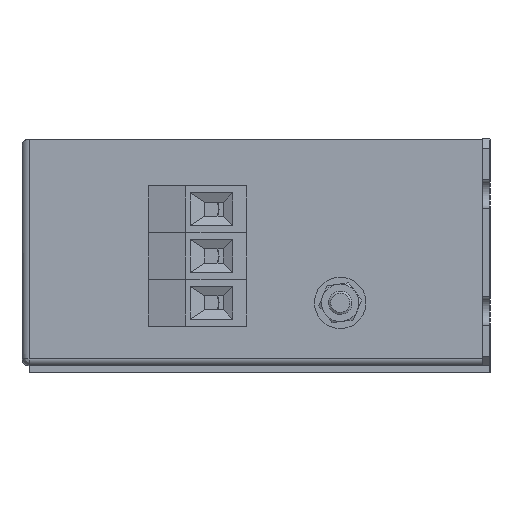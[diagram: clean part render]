
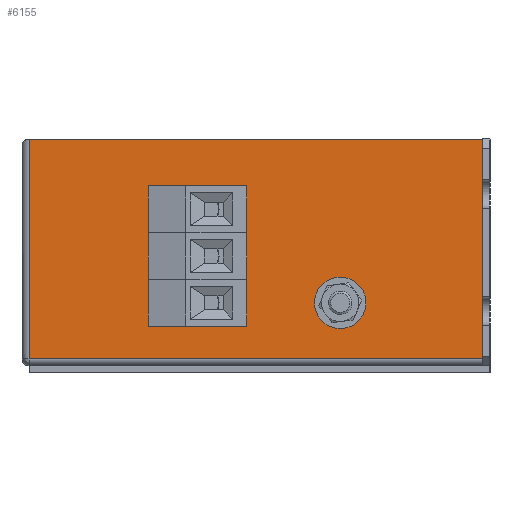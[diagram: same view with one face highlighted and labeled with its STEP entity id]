
A CAD part, left-side view. The second image highlights one B-rep face of the part: STEP entity #6155.
In plain terms, the highlighted planar face has unit normal (-1, 0, 0).
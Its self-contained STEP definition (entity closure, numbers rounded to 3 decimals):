
#51 = DIRECTION ( 'NONE',  ( 0., 0., -1. ) ) ;
#54 = CARTESIAN_POINT ( 'NONE',  ( 15., 98.5, 0. ) ) ;
#88 = AXIS2_PLACEMENT_3D ( 'NONE', #852, #3068, #1511 ) ;
#135 = ORIENTED_EDGE ( 'NONE', *, *, #3307, .F. ) ;
#168 = PLANE ( 'NONE',  #1678 ) ;
#212 = DIRECTION ( 'NONE',  ( -1., 0., 0. ) ) ;
#425 = VERTEX_POINT ( 'NONE', #5685 ) ;
#473 = DIRECTION ( 'NONE',  ( -1., 0., 0. ) ) ;
#514 = CARTESIAN_POINT ( 'NONE',  ( 15., 62., -20.9 ) ) ;
#521 = VERTEX_POINT ( 'NONE', #2566 ) ;
#715 = FACE_BOUND ( 'NONE', #1885, .T. ) ;
#792 = ORIENTED_EDGE ( 'NONE', *, *, #5394, .F. ) ;
#852 = CARTESIAN_POINT ( 'NONE',  ( 15., 62., -15. ) ) ;
#966 = CARTESIAN_POINT ( 'NONE',  ( 15., 32., -32.5 ) ) ;
#1113 = EDGE_LOOP ( 'NONE', ( #5873, #6171 ) ) ;
#1130 = DIRECTION ( 'NONE',  ( 0., 0., -1. ) ) ;
#1235 = DIRECTION ( 'NONE',  ( 0., 1., 0. ) ) ;
#1479 = VERTEX_POINT ( 'NONE', #1503 ) ;
#1503 = CARTESIAN_POINT ( 'NONE',  ( 15., 1.5, -47. ) ) ;
#1511 = DIRECTION ( 'NONE',  ( 0., 0., -1. ) ) ;
#1619 = AXIS2_PLACEMENT_3D ( 'NONE', #5191, #212, #4651 ) ;
#1678 = AXIS2_PLACEMENT_3D ( 'NONE', #4059, #6276, #3185 ) ;
#1687 = EDGE_CURVE ( 'NONE', #1479, #425, #1794, .T. ) ;
#1757 = DIRECTION ( 'NONE',  ( -1., 0., 0. ) ) ;
#1794 = LINE ( 'NONE', #6202, #3916 ) ;
#1800 = CIRCLE ( 'NONE', #3877, 2.5 ) ;
#1885 = EDGE_LOOP ( 'NONE', ( #6940, #792 ) ) ;
#1910 = EDGE_CURVE ( 'NONE', #3219, #3903, #5651, .T. ) ;
#1959 = CIRCLE ( 'NONE', #4617, 4.1 ) ;
#2006 = EDGE_CURVE ( 'NONE', #3558, #6318, #1959, .T. ) ;
#2063 = EDGE_CURVE ( 'NONE', #521, #6119, #3110, .T. ) ;
#2073 = DIRECTION ( 'NONE',  ( -1., 0., 0. ) ) ;
#2152 = EDGE_CURVE ( 'NONE', #6119, #521, #3808, .T. ) ;
#2230 = VERTEX_POINT ( 'NONE', #966 ) ;
#2300 = CARTESIAN_POINT ( 'NONE',  ( 15., 62., -15. ) ) ;
#2302 = DIRECTION ( 'NONE',  ( 0., 0., 1. ) ) ;
#2382 = ORIENTED_EDGE ( 'NONE', *, *, #2152, .F. ) ;
#2420 = EDGE_LOOP ( 'NONE', ( #7015, #5345 ) ) ;
#2424 = DIRECTION ( 'NONE',  ( 0., 1., 0. ) ) ;
#2533 = LINE ( 'NONE', #54, #6608 ) ;
#2566 = CARTESIAN_POINT ( 'NONE',  ( 15., 62., -10.9 ) ) ;
#2610 = CARTESIAN_POINT ( 'NONE',  ( 15., 1.5, 0. ) ) ;
#2671 = CARTESIAN_POINT ( 'NONE',  ( 15., 98.5, 0. ) ) ;
#2793 = EDGE_CURVE ( 'NONE', #2230, #3638, #4400, .T. ) ;
#2887 = DIRECTION ( 'NONE',  ( 0., 0., -1. ) ) ;
#2937 = FACE_BOUND ( 'NONE', #3372, .T. ) ;
#2990 = AXIS2_PLACEMENT_3D ( 'NONE', #2300, #4523, #6218 ) ;
#2993 = CARTESIAN_POINT ( 'NONE',  ( 15., 62., -35. ) ) ;
#3048 = ORIENTED_EDGE ( 'NONE', *, *, #4477, .T. ) ;
#3068 = DIRECTION ( 'NONE',  ( -1., 0., 0. ) ) ;
#3110 = CIRCLE ( 'NONE', #2990, 4.1 ) ;
#3151 = EDGE_CURVE ( 'NONE', #3297, #1479, #5220, .T. ) ;
#3168 = AXIS2_PLACEMENT_3D ( 'NONE', #4150, #6477, #4263 ) ;
#3185 = DIRECTION ( 'NONE',  ( 0., 0., -1. ) ) ;
#3219 = VERTEX_POINT ( 'NONE', #3518 ) ;
#3275 = CIRCLE ( 'NONE', #3168, 4.1 ) ;
#3297 = VERTEX_POINT ( 'NONE', #2610 ) ;
#3307 = EDGE_CURVE ( 'NONE', #425, #5064, #2533, .T. ) ;
#3372 = EDGE_LOOP ( 'NONE', ( #2382, #5187 ) ) ;
#3485 = FACE_BOUND ( 'NONE', #1113, .T. ) ;
#3518 = CARTESIAN_POINT ( 'NONE',  ( 15., 62., -29.1 ) ) ;
#3558 = VERTEX_POINT ( 'NONE', #5751 ) ;
#3638 = VERTEX_POINT ( 'NONE', #5940 ) ;
#3754 = ORIENTED_EDGE ( 'NONE', *, *, #3151, .F. ) ;
#3808 = CIRCLE ( 'NONE', #88, 4.1 ) ;
#3877 = AXIS2_PLACEMENT_3D ( 'NONE', #6615, #1757, #1130 ) ;
#3903 = VERTEX_POINT ( 'NONE', #514 ) ;
#3916 = VECTOR ( 'NONE', #1235, 1000. ) ;
#4059 = CARTESIAN_POINT ( 'NONE',  ( 15., 100., 0. ) ) ;
#4150 = CARTESIAN_POINT ( 'NONE',  ( 15., 62., -25. ) ) ;
#4263 = DIRECTION ( 'NONE',  ( 0., 0., -1. ) ) ;
#4310 = EDGE_CURVE ( 'NONE', #6318, #3558, #5811, .T. ) ;
#4400 = CIRCLE ( 'NONE', #1619, 2.5 ) ;
#4477 = EDGE_CURVE ( 'NONE', #3297, #5064, #5759, .T. ) ;
#4500 = DIRECTION ( 'NONE',  ( 0., 0., -1. ) ) ;
#4523 = DIRECTION ( 'NONE',  ( -1., 0., 0. ) ) ;
#4537 = AXIS2_PLACEMENT_3D ( 'NONE', #5966, #473, #4500 ) ;
#4540 = ORIENTED_EDGE ( 'NONE', *, *, #1687, .F. ) ;
#4570 = DIRECTION ( 'NONE',  ( 0., 0., -1. ) ) ;
#4605 = CARTESIAN_POINT ( 'NONE',  ( 15., 62., -19.1 ) ) ;
#4617 = AXIS2_PLACEMENT_3D ( 'NONE', #2993, #6333, #2887 ) ;
#4651 = DIRECTION ( 'NONE',  ( 0., 0., -1. ) ) ;
#4775 = VECTOR ( 'NONE', #2424, 1000. ) ;
#5064 = VERTEX_POINT ( 'NONE', #2671 ) ;
#5180 = CARTESIAN_POINT ( 'NONE',  ( 15., 100., 0. ) ) ;
#5187 = ORIENTED_EDGE ( 'NONE', *, *, #2063, .F. ) ;
#5191 = CARTESIAN_POINT ( 'NONE',  ( 15., 32., -35. ) ) ;
#5220 = LINE ( 'NONE', #6343, #6494 ) ;
#5345 = ORIENTED_EDGE ( 'NONE', *, *, #2006, .F. ) ;
#5394 = EDGE_CURVE ( 'NONE', #3903, #3219, #3275, .T. ) ;
#5435 = AXIS2_PLACEMENT_3D ( 'NONE', #5575, #2073, #51 ) ;
#5575 = CARTESIAN_POINT ( 'NONE',  ( 15., 62., -25. ) ) ;
#5651 = CIRCLE ( 'NONE', #5435, 4.1 ) ;
#5685 = CARTESIAN_POINT ( 'NONE',  ( 15., 98.5, -47. ) ) ;
#5692 = FACE_BOUND ( 'NONE', #2420, .T. ) ;
#5751 = CARTESIAN_POINT ( 'NONE',  ( 15., 62., -30.9 ) ) ;
#5759 = LINE ( 'NONE', #5180, #4775 ) ;
#5811 = CIRCLE ( 'NONE', #4537, 4.1 ) ;
#5873 = ORIENTED_EDGE ( 'NONE', *, *, #6607, .F. ) ;
#5940 = CARTESIAN_POINT ( 'NONE',  ( 15., 32., -37.5 ) ) ;
#5966 = CARTESIAN_POINT ( 'NONE',  ( 15., 62., -35. ) ) ;
#6104 = CARTESIAN_POINT ( 'NONE',  ( 15., 62., -39.1 ) ) ;
#6119 = VERTEX_POINT ( 'NONE', #4605 ) ;
#6155 = ADVANCED_FACE ( 'NONE', ( #6818, #3485, #5692, #715, #2937 ), #168, .F. ) ;
#6171 = ORIENTED_EDGE ( 'NONE', *, *, #2793, .F. ) ;
#6202 = CARTESIAN_POINT ( 'NONE',  ( 15., 100., -47. ) ) ;
#6218 = DIRECTION ( 'NONE',  ( 0., 0., -1. ) ) ;
#6276 = DIRECTION ( 'NONE',  ( 1., 0., 0. ) ) ;
#6316 = EDGE_LOOP ( 'NONE', ( #135, #4540, #3754, #3048 ) ) ;
#6318 = VERTEX_POINT ( 'NONE', #6104 ) ;
#6333 = DIRECTION ( 'NONE',  ( -1., 0., 0. ) ) ;
#6343 = CARTESIAN_POINT ( 'NONE',  ( 15., 1.5, 0. ) ) ;
#6477 = DIRECTION ( 'NONE',  ( -1., 0., 0. ) ) ;
#6494 = VECTOR ( 'NONE', #4570, 1000. ) ;
#6607 = EDGE_CURVE ( 'NONE', #3638, #2230, #1800, .T. ) ;
#6608 = VECTOR ( 'NONE', #2302, 1000. ) ;
#6615 = CARTESIAN_POINT ( 'NONE',  ( 15., 32., -35. ) ) ;
#6818 = FACE_OUTER_BOUND ( 'NONE', #6316, .T. ) ;
#6940 = ORIENTED_EDGE ( 'NONE', *, *, #1910, .F. ) ;
#7015 = ORIENTED_EDGE ( 'NONE', *, *, #4310, .F. ) ;
